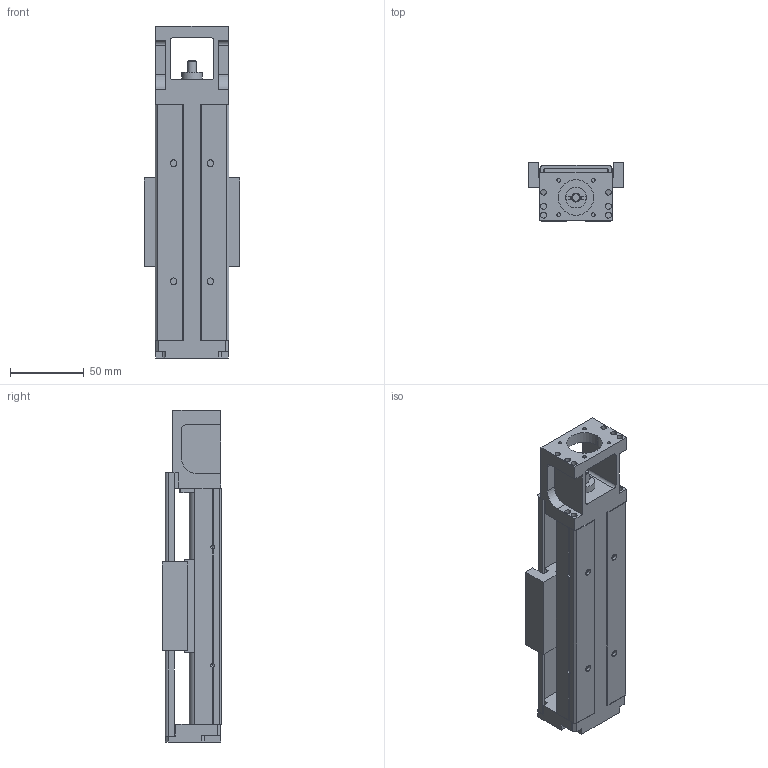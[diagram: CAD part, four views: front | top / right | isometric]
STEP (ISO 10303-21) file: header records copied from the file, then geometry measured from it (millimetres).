
FILE_DESCRIPTION (( 'STEP AP203' ), '1' );
FILE_NAME ('GSX50C-50-LL1210-P7.STEP', '2013-11-02T01:46:35', ( '微软用户' ), ( '微软中国' ), 'SwSTEP 2.0', 'SolidWorks 2010', '' );
FILE_SCHEMA (( 'CONFIG_CONTROL_DESIGN' ));
Length unit declared in the file: millimetre
Products named in the file (1): GSX50C-50-LL1210-P7
Bounding box: 65 x 40 x 225 mm (x, y, z)
Volume: 244018.3 mm3; surface area: 90068.2 mm2
Topology: 3 solids, 8 shells, 370 faces, 963 edges, 604 vertices
Faces by surface type: plane 170, cylinder 156, cone 44
Entity records: 11230 total; most frequent: CARTESIAN_POINT 1970, DIRECTION 1969, ORIENTED_EDGE 1846, EDGE_CURVE 923, AXIS2_PLACEMENT_3D 691, VERTEX_POINT 604, VECTOR 587, LINE 587
